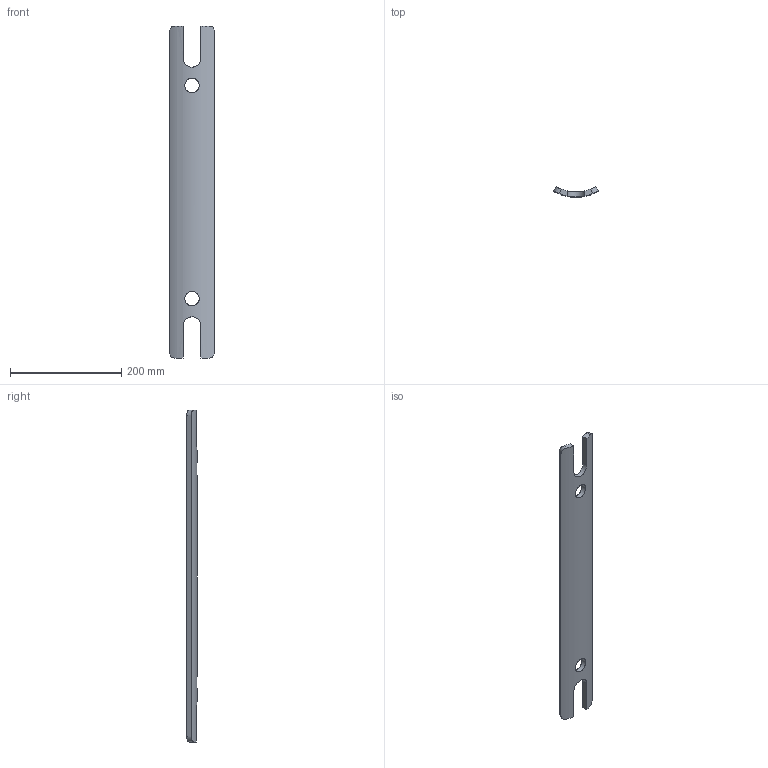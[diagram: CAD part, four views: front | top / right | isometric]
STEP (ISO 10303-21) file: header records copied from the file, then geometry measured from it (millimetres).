
FILE_DESCRIPTION(/* description */ ('Нижний валик. Труба 159'),/* implementation_level */ '2;1');
FILE_NAME(/* name */ 'D:\Work\ОП ДЕЛО\Деложим 250 изм 7\Нижний валик. Труба 159 3D Model.stp',/* time_stamp */ '2025-03-31T13:10:07+04:00',/* author */ ('Администратор'),/* organization */ (''),/* preprocessor_version */ 'ST-DEVELOPER v17.2',/* originating_system */ 'Autodesk Inventor 2019',/* authorisation */ '');
FILE_SCHEMA (('CONFIG_CONTROL_DESIGN'));
Length unit declared in the file: millimetre
Products named in the file (1): ПД-225.03.00.003
Bounding box: 80 x 18.57 x 598 mm (x, y, z)
Volume: 374322.5 mm3; surface area: 99169.4 mm2
Topology: 1 solids, 1 shells, 20 faces, 62 edges, 44 vertices
Faces by surface type: cylinder 10, plane 10
Full cylindrical faces by diameter (mm): 26 x2
Entity records: 1045 total; most frequent: CARTESIAN_POINT 473, ORIENTED_EDGE 124, DIRECTION 88, EDGE_CURVE 62, VERTEX_POINT 44, LINE 30, VECTOR 30, AXIS2_PLACEMENT_3D 29
